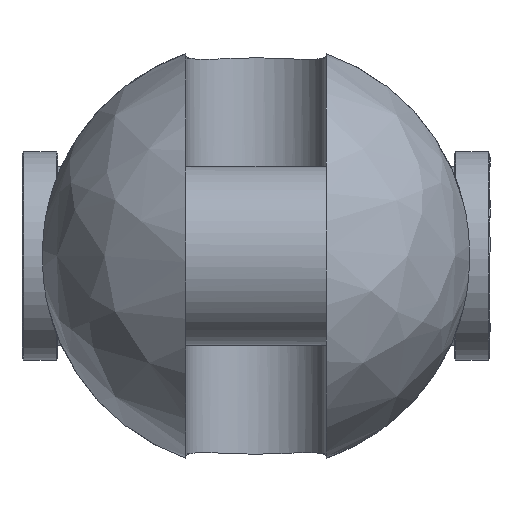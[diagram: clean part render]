
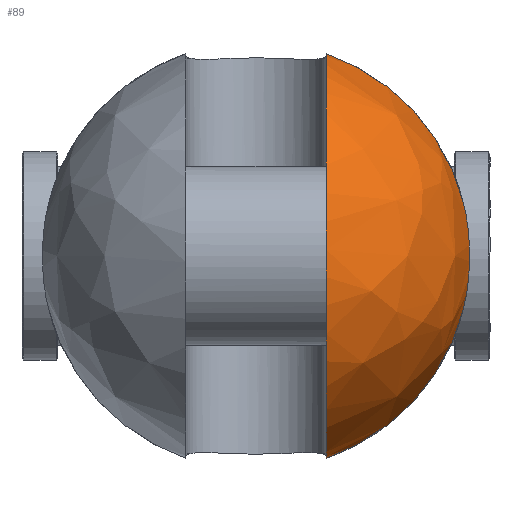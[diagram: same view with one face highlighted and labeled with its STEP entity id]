
A CAD part, left-side view. The second image highlights one B-rep face of the part: STEP entity #89.
In plain terms, the highlighted free-form (B-spline) face has degree [2, 2] with [9, 5] control points.
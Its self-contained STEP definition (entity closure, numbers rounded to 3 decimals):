
#89=ADVANCED_FACE('',(#164),#1301,.T.);
#164=FACE_OUTER_BOUND('',#249,.T.);
#249=EDGE_LOOP('',(#583,#584,#585,#586));
#583=ORIENTED_EDGE('',*,*,#805,.T.);
#584=ORIENTED_EDGE('',*,*,#833,.F.);
#585=ORIENTED_EDGE('',*,*,#845,.T.);
#586=ORIENTED_EDGE('',*,*,#825,.F.);
#805=EDGE_CURVE('',#1188,#1187,#1042,.T.);
#825=EDGE_CURVE('',#1188,#1200,#1052,.T.);
#833=EDGE_CURVE('',#1207,#1187,#1053,.T.);
#845=EDGE_CURVE('',#1207,#1200,#960,.T.);
#960=B_SPLINE_CURVE_WITH_KNOTS('',3,(#3146,#3147,#3148,#3149,#3150,#3151,
#3152,#3153,#3154,#3155,#3156,#3157,#3158,#3159),.UNSPECIFIED.,.F.,.F.,
(4,2,2,2,2,2,4),(0.,3.421,9.625,15.83,22.034,
28.238,31.66),.UNSPECIFIED.);
#1042=(
BOUNDED_CURVE()
B_SPLINE_CURVE(2,(#2890,#2891,#2892,#2893,#2894),.UNSPECIFIED.,.F.,.F.)
B_SPLINE_CURVE_WITH_KNOTS((3,2,3),(-176.601,-88.301,
0.),.UNSPECIFIED.)
CURVE()
GEOMETRIC_REPRESENTATION_ITEM()
RATIONAL_B_SPLINE_CURVE((1.,0.707,1.,0.707,1.))
REPRESENTATION_ITEM('')
);
#1052=(
BOUNDED_CURVE()
B_SPLINE_CURVE(2,(#3016,#3017,#3018),.UNSPECIFIED.,.F.,.F.)
B_SPLINE_CURVE_WITH_KNOTS((3,3),(0.,58.466),.UNSPECIFIED.)
CURVE()
GEOMETRIC_REPRESENTATION_ITEM()
RATIONAL_B_SPLINE_CURVE((1.,0.882,1.))
REPRESENTATION_ITEM('')
);
#1053=(
BOUNDED_CURVE()
B_SPLINE_CURVE(2,(#3073,#3074,#3075),.UNSPECIFIED.,.F.,.F.)
B_SPLINE_CURVE_WITH_KNOTS((3,3),(0.,58.466),.UNSPECIFIED.)
CURVE()
GEOMETRIC_REPRESENTATION_ITEM()
RATIONAL_B_SPLINE_CURVE((1.,0.882,1.))
REPRESENTATION_ITEM('')
);
#1187=VERTEX_POINT('',#2832);
#1188=VERTEX_POINT('',#2833);
#1200=VERTEX_POINT('',#2845);
#1207=VERTEX_POINT('',#2852);
#1301=(
BOUNDED_SURFACE()
B_SPLINE_SURFACE(2,2,((#2440,#2441,#2442,#2443,#2444),(#2445,#2446,#2447,
#2448,#2449),(#2450,#2451,#2452,#2453,#2454),(#2455,#2456,#2457,#2458,#2459),
(#2460,#2461,#2462,#2463,#2464),(#2465,#2466,#2467,#2468,#2469),(#2470,
#2471,#2472,#2473,#2474),(#2475,#2476,#2477,#2478,#2479),(#2480,#2481,#2482,
#2483,#2484)),.UNSPECIFIED.,.T.,.F.,.F.)
B_SPLINE_SURFACE_WITH_KNOTS((3,2,2,2,3),(3,2,3),(0.,93.462,186.925,
280.387,373.85),(0.,93.462,186.925),
 .UNSPECIFIED.)
GEOMETRIC_REPRESENTATION_ITEM()
RATIONAL_B_SPLINE_SURFACE(((1.,0.707,1.,0.707,1.),
(0.707,0.5,0.707,0.5,0.707),(1.,0.707,
1.,0.707,1.),(0.707,0.5,0.707,0.5,0.707),
(1.,0.707,1.,0.707,1.),(0.707,0.5,0.707,
0.5,0.707),(1.,0.707,1.,0.707,1.),(0.707,
0.5,0.707,0.5,0.707),(1.,0.707,1.,0.707,
1.)))
REPRESENTATION_ITEM('')
SURFACE()
);
#2440=CARTESIAN_POINT('',(-85.5,0.,0.));
#2441=CARTESIAN_POINT('',(-85.5,59.5,0.));
#2442=CARTESIAN_POINT('',(-26.,59.5,0.));
#2443=CARTESIAN_POINT('',(33.5,59.5,0.));
#2444=CARTESIAN_POINT('',(33.5,0.,0.));
#2445=CARTESIAN_POINT('',(-85.5,0.,0.));
#2446=CARTESIAN_POINT('',(-85.5,59.5,59.5));
#2447=CARTESIAN_POINT('',(-26.,59.5,59.5));
#2448=CARTESIAN_POINT('',(33.5,59.5,59.5));
#2449=CARTESIAN_POINT('',(33.5,0.,0.));
#2450=CARTESIAN_POINT('',(-85.5,0.,0.));
#2451=CARTESIAN_POINT('',(-85.5,0.,59.5));
#2452=CARTESIAN_POINT('',(-26.,0.,59.5));
#2453=CARTESIAN_POINT('',(33.5,0.,59.5));
#2454=CARTESIAN_POINT('',(33.5,0.,0.));
#2455=CARTESIAN_POINT('',(-85.5,0.,0.));
#2456=CARTESIAN_POINT('',(-85.5,-59.5,59.5));
#2457=CARTESIAN_POINT('',(-26.,-59.5,59.5));
#2458=CARTESIAN_POINT('',(33.5,-59.5,59.5));
#2459=CARTESIAN_POINT('',(33.5,0.,0.));
#2460=CARTESIAN_POINT('',(-85.5,0.,0.));
#2461=CARTESIAN_POINT('',(-85.5,-59.5,0.));
#2462=CARTESIAN_POINT('',(-26.,-59.5,0.));
#2463=CARTESIAN_POINT('',(33.5,-59.5,0.));
#2464=CARTESIAN_POINT('',(33.5,0.,0.));
#2465=CARTESIAN_POINT('',(-85.5,0.,0.));
#2466=CARTESIAN_POINT('',(-85.5,-59.5,-59.5));
#2467=CARTESIAN_POINT('',(-26.,-59.5,-59.5));
#2468=CARTESIAN_POINT('',(33.5,-59.5,-59.5));
#2469=CARTESIAN_POINT('',(33.5,0.,0.));
#2470=CARTESIAN_POINT('',(-85.5,0.,0.));
#2471=CARTESIAN_POINT('',(-85.5,0.,-59.5));
#2472=CARTESIAN_POINT('',(-26.,0.,-59.5));
#2473=CARTESIAN_POINT('',(33.5,0.,-59.5));
#2474=CARTESIAN_POINT('',(33.5,0.,0.));
#2475=CARTESIAN_POINT('',(-85.5,0.,0.));
#2476=CARTESIAN_POINT('',(-85.5,59.5,-59.5));
#2477=CARTESIAN_POINT('',(-26.,59.5,-59.5));
#2478=CARTESIAN_POINT('',(33.5,59.5,-59.5));
#2479=CARTESIAN_POINT('',(33.5,0.,0.));
#2480=CARTESIAN_POINT('',(-85.5,0.,0.));
#2481=CARTESIAN_POINT('',(-85.5,59.5,0.));
#2482=CARTESIAN_POINT('',(-26.,59.5,0.));
#2483=CARTESIAN_POINT('',(33.5,59.5,0.));
#2484=CARTESIAN_POINT('',(33.5,0.,0.));
#2832=CARTESIAN_POINT('',(-26.,-19.5,-56.214));
#2833=CARTESIAN_POINT('',(-26.,-19.5,56.214));
#2845=CARTESIAN_POINT('',(-26.,-57.587,14.967));
#2852=CARTESIAN_POINT('',(-26.,-57.587,-14.967));
#2890=CARTESIAN_POINT('',(-26.,-19.5,56.214));
#2891=CARTESIAN_POINT('',(-82.214,-19.5,56.214));
#2892=CARTESIAN_POINT('',(-82.214,-19.5,0.));
#2893=CARTESIAN_POINT('',(-82.214,-19.5,-56.214));
#2894=CARTESIAN_POINT('',(-26.,-19.5,-56.214));
#3016=CARTESIAN_POINT('',(-26.,-19.5,56.214));
#3017=CARTESIAN_POINT('',(-26.,-49.579,45.78));
#3018=CARTESIAN_POINT('',(-26.,-57.587,14.967));
#3073=CARTESIAN_POINT('',(-26.,-57.587,-14.967));
#3074=CARTESIAN_POINT('',(-26.,-49.579,-45.78));
#3075=CARTESIAN_POINT('',(-26.,-19.5,-56.214));
#3146=CARTESIAN_POINT('',(-26.,-57.587,-14.967));
#3147=CARTESIAN_POINT('',(-26.561,-57.84,-13.992));
#3148=CARTESIAN_POINT('',(-27.071,-58.069,-12.979));
#3149=CARTESIAN_POINT('',(-28.343,-58.636,-10.046));
#3150=CARTESIAN_POINT('',(-28.971,-58.913,-8.056));
#3151=CARTESIAN_POINT('',(-29.8,-59.278,-4.025));
#3152=CARTESIAN_POINT('',(-30.,-59.365,-1.984));
#3153=CARTESIAN_POINT('',(-30.,-59.365,1.984));
#3154=CARTESIAN_POINT('',(-29.8,-59.278,4.025));
#3155=CARTESIAN_POINT('',(-28.971,-58.913,8.056));
#3156=CARTESIAN_POINT('',(-28.343,-58.636,10.046));
#3157=CARTESIAN_POINT('',(-27.071,-58.069,12.979));
#3158=CARTESIAN_POINT('',(-26.561,-57.84,13.992));
#3159=CARTESIAN_POINT('',(-26.,-57.587,14.967));
